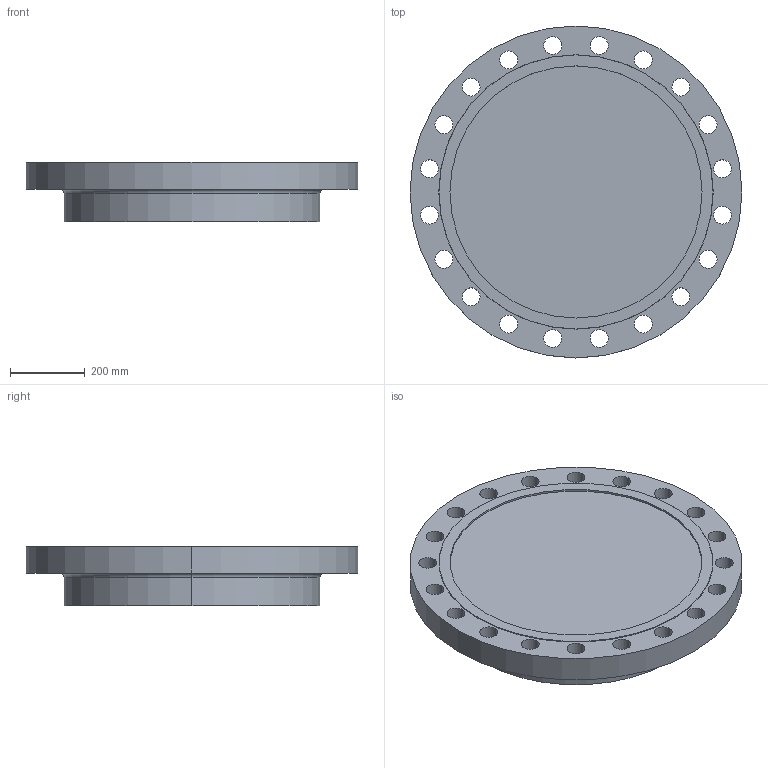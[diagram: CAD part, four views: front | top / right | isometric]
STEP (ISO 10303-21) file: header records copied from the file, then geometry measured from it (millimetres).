
FILE_DESCRIPTION (( 'STEP AP214' ), '1' );
FILE_NAME ('PN40 DN600 Type 21(i) - Type F Face.STEP', '2018-12-29T04:40:00', ( '' ), ( '' ), 'SwSTEP 2.0', 'SolidWorks 2019', '' );
FILE_SCHEMA (( 'AUTOMOTIVE_DESIGN' ));
Length unit declared in the file: millimetre
Products named in the file (1): PN40 DN600 Type 21(i) - Type F Face
Bounding box: 890 x 890 x 160 mm (x, y, z)
Volume: 72661829.5 mm3; surface area: 1771793.1 mm2
Topology: 1 solids, 1 shells, 55 faces, 148 edges, 98 vertices
Faces by surface type: cylinder 46, plane 5, torus 2, cone 2
Entity records: 1900 total; most frequent: DIRECTION 360, CARTESIAN_POINT 302, ORIENTED_EDGE 296, AXIS2_PLACEMENT_3D 156, EDGE_CURVE 148, CIRCLE 100, VERTEX_POINT 98, EDGE_LOOP 98
